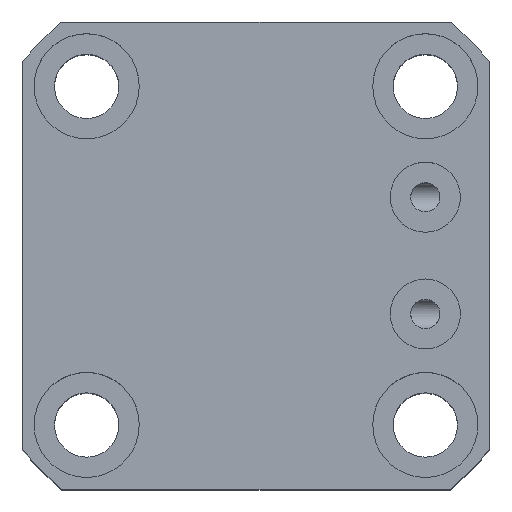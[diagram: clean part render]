
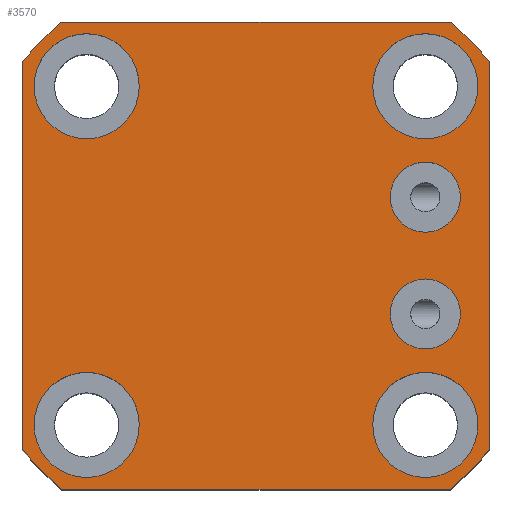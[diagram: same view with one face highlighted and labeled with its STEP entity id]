
A CAD part, top view. The second image highlights one B-rep face of the part: STEP entity #3570.
In plain terms, the highlighted planar face has unit normal (0, 0, 1).
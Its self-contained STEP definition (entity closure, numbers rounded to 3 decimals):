
#3570=ADVANCED_FACE('',(#4394,#4395,#4396,#4397,#4398,#4399,#4400),#4035,
 .T.);
#4035=PLANE('',#11839);
#4394=FACE_BOUND('',#4617,.T.);
#4395=FACE_BOUND('',#4618,.T.);
#4396=FACE_BOUND('',#4619,.T.);
#4397=FACE_BOUND('',#4620,.T.);
#4398=FACE_BOUND('',#4621,.T.);
#4399=FACE_BOUND('',#4622,.T.);
#4400=FACE_BOUND('',#4623,.T.);
#4617=EDGE_LOOP('',(#7084));
#4618=EDGE_LOOP('',(#7085));
#4619=EDGE_LOOP('',(#7086));
#4620=EDGE_LOOP('',(#7087));
#4621=EDGE_LOOP('',(#7088));
#4622=EDGE_LOOP('',(#7089));
#4623=EDGE_LOOP('',(#7090,#7091,#7092,#7093,#7094,#7095,#7096,#7097));
#5177=LINE('',#14170,#6013);
#5184=LINE('',#14875,#6020);
#5188=LINE('',#14887,#6024);
#5191=LINE('',#14896,#6027);
#6013=VECTOR('',#12256,1.);
#6020=VECTOR('',#12411,1.);
#6024=VECTOR('',#12423,1.);
#6027=VECTOR('',#12434,1.);
#7084=ORIENTED_EDGE('',*,*,#10394,.F.);
#7085=ORIENTED_EDGE('',*,*,#10396,.F.);
#7086=ORIENTED_EDGE('',*,*,#10452,.F.);
#7087=ORIENTED_EDGE('',*,*,#10454,.F.);
#7088=ORIENTED_EDGE('',*,*,#10456,.F.);
#7089=ORIENTED_EDGE('',*,*,#10458,.F.);
#7090=ORIENTED_EDGE('',*,*,#10477,.T.);
#7091=ORIENTED_EDGE('',*,*,#10382,.T.);
#7092=ORIENTED_EDGE('',*,*,#10481,.T.);
#7093=ORIENTED_EDGE('',*,*,#10484,.T.);
#7094=ORIENTED_EDGE('',*,*,#10487,.T.);
#7095=ORIENTED_EDGE('',*,*,#10490,.T.);
#7096=ORIENTED_EDGE('',*,*,#10493,.T.);
#7097=ORIENTED_EDGE('',*,*,#10495,.T.);
#9487=VERTEX_POINT('',#14169);
#9488=VERTEX_POINT('',#14171);
#9499=VERTEX_POINT('',#14221);
#9501=VERTEX_POINT('',#14226);
#9556=VERTEX_POINT('',#14800);
#9558=VERTEX_POINT('',#14805);
#9560=VERTEX_POINT('',#14810);
#9562=VERTEX_POINT('',#14815);
#9581=VERTEX_POINT('',#14862);
#9583=VERTEX_POINT('',#14868);
#9585=VERTEX_POINT('',#14874);
#9587=VERTEX_POINT('',#14880);
#9589=VERTEX_POINT('',#14886);
#9591=VERTEX_POINT('',#14892);
#10382=EDGE_CURVE('',#9488,#9487,#5177,.T.);
#10394=EDGE_CURVE('',#9499,#9499,#11648,.T.);
#10396=EDGE_CURVE('',#9501,#9501,#11650,.T.);
#10452=EDGE_CURVE('',#9556,#9556,#11665,.T.);
#10454=EDGE_CURVE('',#9558,#9558,#11667,.T.);
#10456=EDGE_CURVE('',#9560,#9560,#11669,.T.);
#10458=EDGE_CURVE('',#9562,#9562,#11671,.T.);
#10477=EDGE_CURVE('',#9581,#9488,#11690,.T.);
#10481=EDGE_CURVE('',#9487,#9583,#11692,.T.);
#10484=EDGE_CURVE('',#9583,#9585,#5184,.T.);
#10487=EDGE_CURVE('',#9585,#9587,#11694,.T.);
#10490=EDGE_CURVE('',#9587,#9589,#5188,.T.);
#10493=EDGE_CURVE('',#9589,#9591,#11696,.T.);
#10495=EDGE_CURVE('',#9591,#9581,#5191,.T.);
#11648=CIRCLE('',#11761,6.);
#11650=CIRCLE('',#11764,6.);
#11665=CIRCLE('',#11788,9.);
#11667=CIRCLE('',#11791,9.);
#11669=CIRCLE('',#11794,9.);
#11671=CIRCLE('',#11797,9.);
#11690=CIRCLE('',#11825,52.);
#11692=CIRCLE('',#11828,52.);
#11694=CIRCLE('',#11832,52.);
#11696=CIRCLE('',#11836,52.);
#11761=AXIS2_PLACEMENT_3D('',#14220,#12268,#12269);
#11764=AXIS2_PLACEMENT_3D('',#14225,#12274,#12275);
#11788=AXIS2_PLACEMENT_3D('',#14799,#12323,#12324);
#11791=AXIS2_PLACEMENT_3D('',#14804,#12329,#12330);
#11794=AXIS2_PLACEMENT_3D('',#14809,#12335,#12336);
#11797=AXIS2_PLACEMENT_3D('',#14814,#12341,#12342);
#11825=AXIS2_PLACEMENT_3D('',#14861,#12397,#12398);
#11828=AXIS2_PLACEMENT_3D('',#14869,#12405,#12406);
#11832=AXIS2_PLACEMENT_3D('',#14881,#12417,#12418);
#11836=AXIS2_PLACEMENT_3D('',#14893,#12429,#12430);
#11839=AXIS2_PLACEMENT_3D('',#14898,#12437,#12438);
#12256=DIRECTION('',(0.,-1.,0.));
#12268=DIRECTION('',(0.,0.,1.));
#12269=DIRECTION('',(1.,0.,0.));
#12274=DIRECTION('',(0.,0.,1.));
#12275=DIRECTION('',(1.,0.,0.));
#12323=DIRECTION('',(0.,0.,1.));
#12324=DIRECTION('',(1.,0.,0.));
#12329=DIRECTION('',(0.,0.,1.));
#12330=DIRECTION('',(1.,0.,0.));
#12335=DIRECTION('',(0.,0.,1.));
#12336=DIRECTION('',(1.,0.,0.));
#12341=DIRECTION('',(0.,0.,1.));
#12342=DIRECTION('',(1.,0.,0.));
#12397=DIRECTION('',(0.,0.,1.));
#12398=DIRECTION('',(1.,0.,0.));
#12405=DIRECTION('',(0.,0.,1.));
#12406=DIRECTION('',(1.,0.,0.));
#12411=DIRECTION('',(1.,0.,0.));
#12417=DIRECTION('',(0.,0.,1.));
#12418=DIRECTION('',(1.,0.,0.));
#12423=DIRECTION('',(0.,1.,0.));
#12429=DIRECTION('',(0.,0.,1.));
#12430=DIRECTION('',(1.,0.,0.));
#12434=DIRECTION('',(-1.,0.,0.));
#12437=DIRECTION('',(0.,0.,1.));
#12438=DIRECTION('',(-1.,0.,0.));
#14169=CARTESIAN_POINT('',(-40.,-33.226,42.5));
#14170=CARTESIAN_POINT('',(-40.,33.226,42.5));
#14171=CARTESIAN_POINT('',(-40.,33.226,42.5));
#14220=CARTESIAN_POINT('',(29.,-10.,42.5));
#14221=CARTESIAN_POINT('',(35.,-10.,42.5));
#14225=CARTESIAN_POINT('',(29.,10.,42.5));
#14226=CARTESIAN_POINT('',(35.,10.,42.5));
#14799=CARTESIAN_POINT('',(29.,-29.,42.5));
#14800=CARTESIAN_POINT('',(38.,-29.,42.5));
#14804=CARTESIAN_POINT('',(-29.,-29.,42.5));
#14805=CARTESIAN_POINT('',(-20.,-29.,42.5));
#14809=CARTESIAN_POINT('',(-29.,29.,42.5));
#14810=CARTESIAN_POINT('',(-20.,29.,42.5));
#14814=CARTESIAN_POINT('',(29.,29.,42.5));
#14815=CARTESIAN_POINT('',(38.,29.,42.5));
#14861=CARTESIAN_POINT('',(0.,0.,42.5));
#14862=CARTESIAN_POINT('',(-33.226,40.,42.5));
#14868=CARTESIAN_POINT('',(-33.226,-40.,42.5));
#14869=CARTESIAN_POINT('',(0.,0.,42.5));
#14874=CARTESIAN_POINT('',(33.226,-40.,42.5));
#14875=CARTESIAN_POINT('',(-33.226,-40.,42.5));
#14880=CARTESIAN_POINT('',(40.,-33.226,42.5));
#14881=CARTESIAN_POINT('',(0.,0.,42.5));
#14886=CARTESIAN_POINT('',(40.,33.226,42.5));
#14887=CARTESIAN_POINT('',(40.,33.226,42.5));
#14892=CARTESIAN_POINT('',(33.226,40.,42.5));
#14893=CARTESIAN_POINT('',(0.,0.,42.5));
#14896=CARTESIAN_POINT('',(-33.226,40.,42.5));
#14898=CARTESIAN_POINT('',(0.,0.,42.5));
